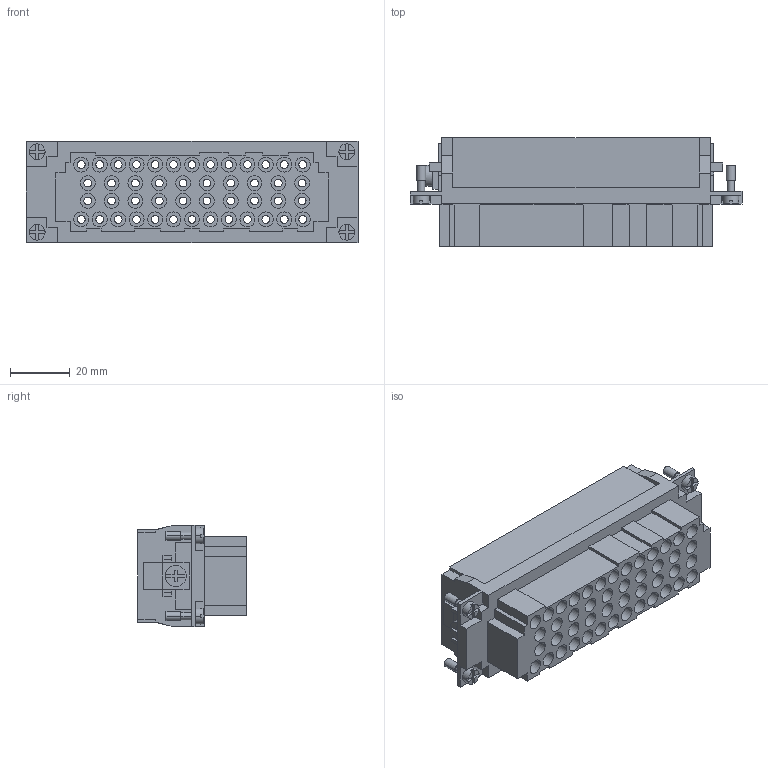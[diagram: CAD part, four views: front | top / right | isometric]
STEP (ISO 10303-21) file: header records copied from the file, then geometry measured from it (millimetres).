
FILE_DESCRIPTION (( 'STEP AP203' ), '1' );
FILE_NAME ('352241.STEP', '2025-06-26T08:50:27', ( '' ), ( '' ), 'SwSTEP 2.0', 'SolidWorks 2018', '' );
FILE_SCHEMA (( 'CONFIG_CONTROL_DESIGN' ));
Length unit declared in the file: millimetre
Products named in the file (1): 352241
Bounding box: 111.5 x 36.5 x 34 mm (x, y, z)
Volume: 69471.2 mm3; surface area: 42539.2 mm2
Topology: 1 solids, 1 shells, 756 faces, 1796 edges, 1196 vertices
Faces by surface type: cylinder 396, plane 360
Entity records: 22417 total; most frequent: DIRECTION 4138, CARTESIAN_POINT 3749, ORIENTED_EDGE 3592, EDGE_CURVE 1796, AXIS2_PLACEMENT_3D 1585, VERTEX_POINT 1196, EDGE_LOOP 1002, VECTOR 968
